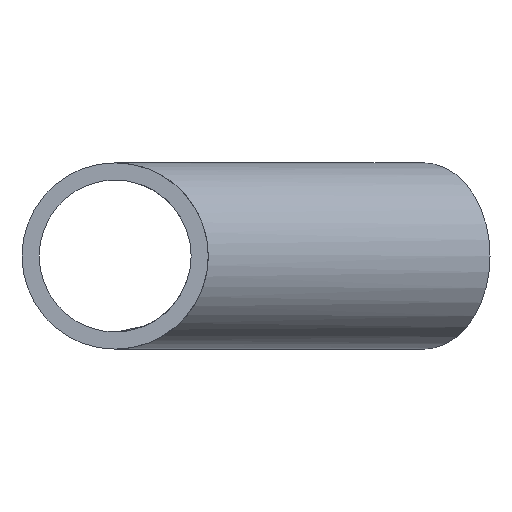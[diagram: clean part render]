
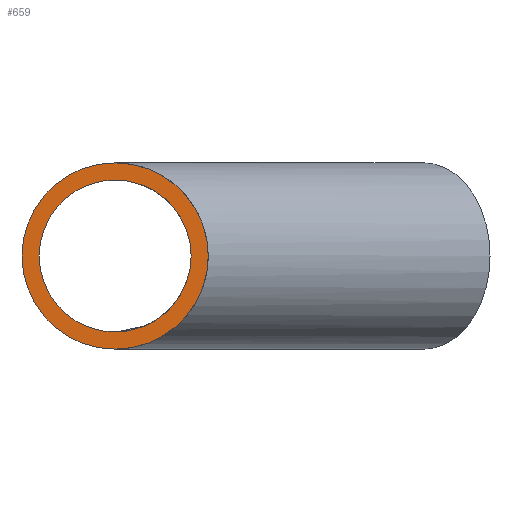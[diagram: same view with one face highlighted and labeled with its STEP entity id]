
A CAD part, front view. The second image highlights one B-rep face of the part: STEP entity #659.
In plain terms, the highlighted planar face has unit normal (0, -1, 0).
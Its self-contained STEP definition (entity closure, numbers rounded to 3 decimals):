
#281=CARTESIAN_POINT('',(-30.6,-112.,0.));
#282=VERTEX_POINT('',#281);
#289=CARTESIAN_POINT('',(0.,-112.,0.));
#290=DIRECTION('',(0.,1.,0.));
#291=DIRECTION('',(1.,0.,0.));
#292=AXIS2_PLACEMENT_3D('',#289,#290,#291);
#293=CIRCLE('',#292,30.6);
#294=EDGE_CURVE('',#282,#282,#293,.T.);
#597=CARTESIAN_POINT('',(-37.5,-112.,0.));
#598=VERTEX_POINT('',#597);
#605=CARTESIAN_POINT('',(37.5,-112.,0.));
#606=VERTEX_POINT('',#605);
#607=CARTESIAN_POINT('',(0.,-112.,0.));
#608=DIRECTION('',(0.,1.,0.));
#609=DIRECTION('',(1.,0.,0.));
#610=AXIS2_PLACEMENT_3D('',#607,#608,#609);
#611=CIRCLE('',#610,37.5);
#612=EDGE_CURVE('',#598,#606,#611,.T.);
#614=EDGE_CURVE('',#606,#598,#611,.T.);
#647=ORIENTED_EDGE('',*,*,#614,.F.);
#648=ORIENTED_EDGE('',*,*,#612,.F.);
#649=EDGE_LOOP('',(#647,#648));
#650=FACE_OUTER_BOUND('',#649,.T.);
#651=ORIENTED_EDGE('',*,*,#294,.T.);
#652=EDGE_LOOP('',(#651));
#653=FACE_BOUND('',#652,.T.);
#654=CARTESIAN_POINT('',(0.,-112.,0.));
#655=DIRECTION('',(0.,1.,0.));
#656=DIRECTION('',(0.,0.,1.));
#657=AXIS2_PLACEMENT_3D('',#654,#655,#656);
#658=PLANE('',#657);
#659=ADVANCED_FACE('',(#650,#653),#658,.F.);
